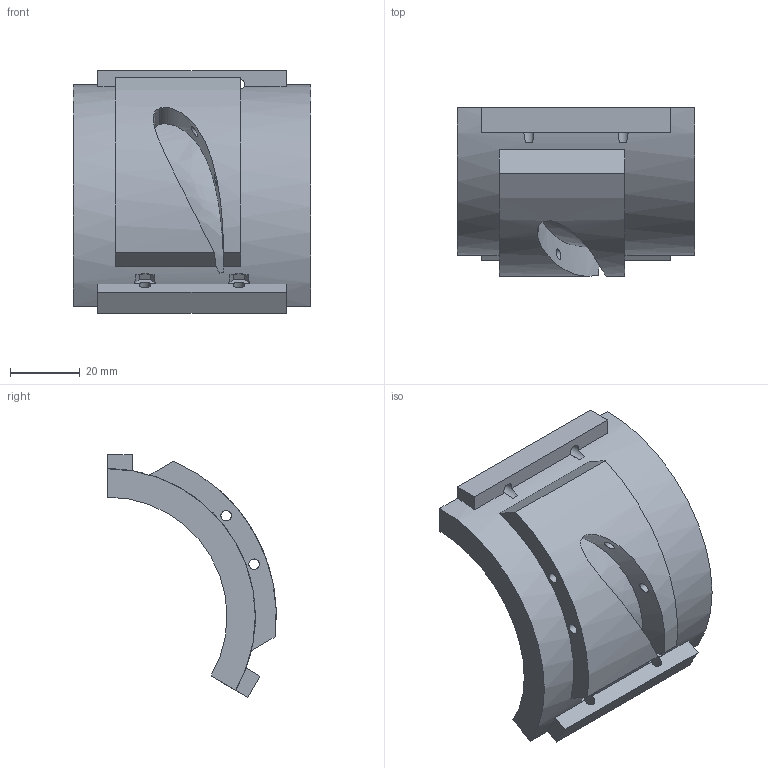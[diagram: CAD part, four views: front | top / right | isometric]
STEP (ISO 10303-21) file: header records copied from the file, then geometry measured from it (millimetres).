
FILE_DESCRIPTION(('Open CASCADE Model'),'2;1');
FILE_NAME('Open CASCADE Shape Model','2026-10-31T23:30:32',('Author'),( 'Open CASCADE'),'Open CASCADE STEP processor 7.9','Open CASCADE 7.9' ,'Unknown');
FILE_SCHEMA(('AUTOMOTIVE_DESIGN { 1 0 10303 214 1 1 1 1 }'));
Length unit declared in the file: millimetre
Products named in the file (1): Open CASCADE STEP translator 7.9 17
Bounding box: 67.8 x 48.2 x 69.3 mm (x, y, z)
Volume: 36049.5 mm3; surface area: 17855 mm2
Topology: 1 solids, 1 shells, 62 faces, 184 edges, 123 vertices
Faces by surface type: plane 43, cylinder 15, bspline 4
Full cylindrical faces by diameter (mm): 3 x4, 3.2 x4
Entity records: 11250 total; most frequent: CARTESIAN_POINT 7702, DIRECTION 614, LINE 380, VECTOR 380, ORIENTED_EDGE 368, PCURVE 368, DEFINITIONAL_REPRESENTATION 368, EDGE_CURVE 184
